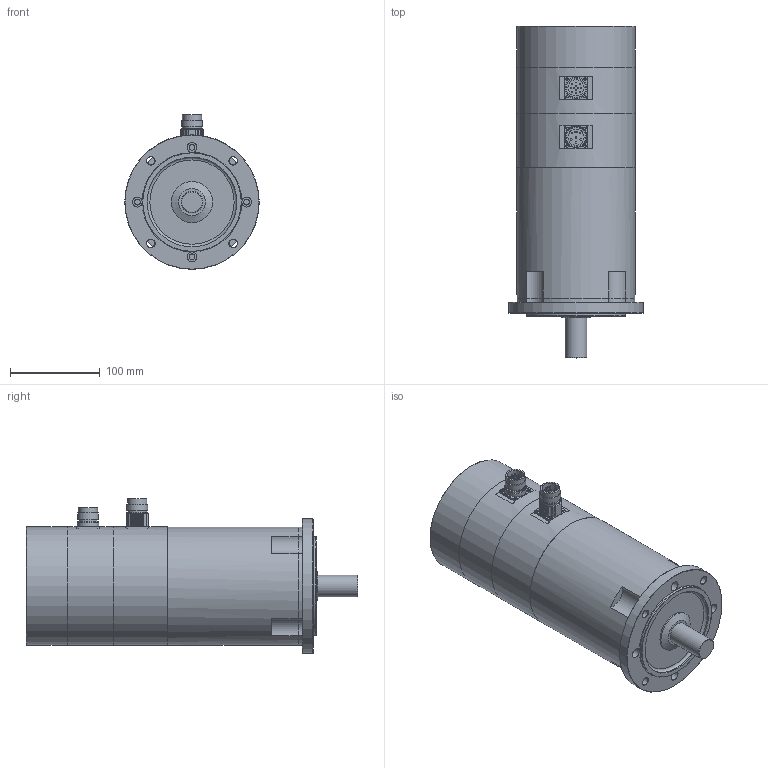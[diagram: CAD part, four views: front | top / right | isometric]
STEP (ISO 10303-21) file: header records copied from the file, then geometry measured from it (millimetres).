
FILE_DESCRIPTION(/* description */ (''),/* implementation_level */ '2;1');
FILE_NAME(/* name */ 'ksy_4612e_md_rx',/* time_stamp */ '2007-03-20T15:06:06+01:00',/* author */ (''),/* organization */ (''),/* preprocessor_version */ 'ST-DEVELOPER v8',/* originating_system */ 'UNIGRAPHICS SOLUTIONS - UNIGRAPHICS 18.0',/* authorisation */ '');
FILE_SCHEMA (('AUTOMOTIVE_DESIGN { 1 2 10303 214 0 1 1 1 }'));
Length unit declared in the file: millimetre
Products named in the file (11): 014261_0; 014260_0; 064319_0; 064320_0; 114126_0; 06330101_0; DIN3760_org_A25x40x7_0; Rotor_SY 46.. E_0; Gehaeuse_SY 46.. E_0; 114119_0; KSY464_E_MD-RD_0
Assembly tree (10 placements, depth 2):
  KSY464_E_MD-RD_0
    114119_0
    Gehaeuse_SY 46.. E_0
    Rotor_SY 46.. E_0
    DIN3760_org_A25x40x7_0
    06330101_0
    114126_0
    064320_0
    064319_0
    014260_0
    014261_0
Bounding box: 150 x 370 x 172.5 mm (x, y, z)
Volume: 3747459.5 mm3; surface area: 339867.3 mm2
Topology: 10 solids, 10 shells, 279 faces, 700 edges, 448 vertices
Faces by surface type: cylinder 153, plane 77, cone 20, sphere 20, torus 9
Full cylindrical faces by diameter (mm): 1 x16, 2 x4, 2.7 x8, 6.5 x4, 9 x4, 11 x4, 18 x2, 20 x4, 21 x2, 21.5 x2, 23 x4, 23.52 x1, 23.9 x1, 24 x2, 25 x2, 25.3 x1, 30 x1, 37 x1, 40 x2, 43 x1, 46 x1, 52 x1, 100 x1, 105.3 x1, 106 x1, 107 x2, 110 x1, 132 x4, 150 x1
Entity records: 7466 total; most frequent: DIRECTION 1412, CARTESIAN_POINT 1141, ORIENTED_EDGE 950, AXIS2_PLACEMENT_3D 647, EDGE_CURVE 475, EDGE_LOOP 474, VERTEX_POINT 376, CIRCLE 357
